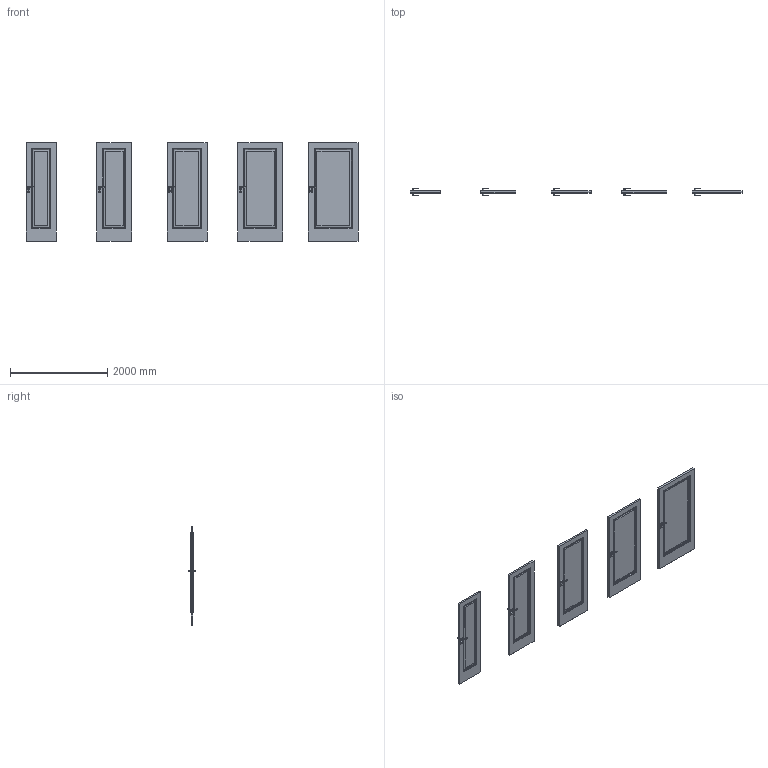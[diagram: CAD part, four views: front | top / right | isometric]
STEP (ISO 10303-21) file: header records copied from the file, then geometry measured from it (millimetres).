
FILE_DESCRIPTION(/* description */ (''),/* implementation_level */ '2;1');
FILE_NAME(/* name */ '049921_A_1-Skrzydło NOVA model 2.1_ polska norma _PN__ bezprzylgowe..stp',/* time_stamp */ '2024-10-31T13:21:37+01:00',/* author */ (''),/* organization */ (''),/* preprocessor_version */ 'ST-DEVELOPER v16',/* originating_system */ 'SIEMENS PLM Software NX 11.0',/* authorisation */ '');
FILE_SCHEMA (('AUTOMOTIVE_DESIGN { 1 0 10303 214 3 1 1 1 }'));
Products named in the file (1): bkni1DCC942B7rna
Bounding box: 6818 x 153.13 x 2017 mm (x, y, z)
Volume: 220997011.1 mm3; surface area: 23363399.5 mm2
Topology: 44 solids, 50 shells, 1807 faces, 4536 edges, 2670 vertices
Faces by surface type: plane 909, bspline 510, cylinder 248, sphere 140
Entity records: 77629 total; most frequent: CARTESIAN_POINT 38588, ORIENTED_EDGE 8792, DIRECTION 6724, EDGE_CURVE 4396, VERTEX_POINT 2670, LINE 2488, VECTOR 2488, AXIS2_PLACEMENT_3D 2118
